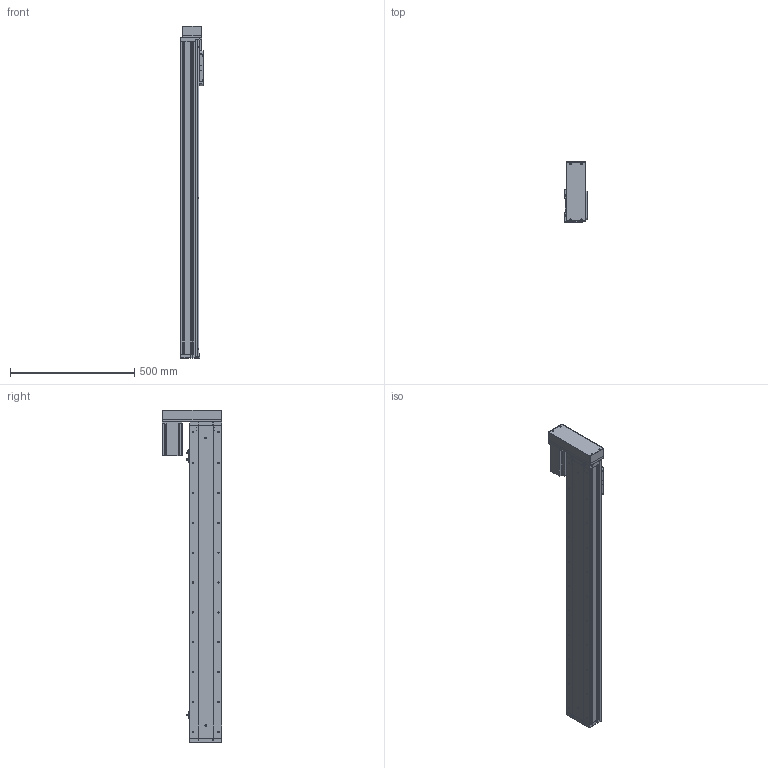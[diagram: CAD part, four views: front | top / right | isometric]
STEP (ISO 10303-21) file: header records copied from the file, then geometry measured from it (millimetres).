
FILE_DESCRIPTION (( 'STEP AP214' ), '1' );
FILE_NAME ('KSD130S-P2010-ML-CR-S1050.STEP', '2019-09-24T06:40:33', ( '微软用户' ), ( '微软中国' ), 'SwSTEP 2.0', 'SolidWorks 2014', '' );
FILE_SCHEMA (( 'AUTOMOTIVE_DESIGN' ));
Length unit declared in the file: millimetre
Products named in the file (14): 130宽滚珠螺姆安装板1防护罩; 130宽滚珠螺姆安装板1; 130宽侧板全封闭-1050行程; 130宽全封闭马达安装板丝杠; 130宽全封闭端盖丝杠; 130宽底板全封闭丝杠-1050行程; 130宽模组保护罩左右折; KSD130S-P2010-ML-CR-S1050; 台达ECMA－C20807AS伺服电机; 130宽模组马达安装板连板左右折丝杆; 感应片130宽全封闭; U倰嫖萇EEㄜSX672; 130遵裔啣揤啣1; 130宽盖板全封闭-1050行程
Assembly tree (17 placements, depth 2):
  KSD130S-P2010-ML-CR-S1050
    130宽底板全封闭丝杠-1050行程
    130宽全封闭端盖丝杠
    130宽全封闭马达安装板丝杠
    130宽侧板全封闭-1050行程  x2
    130宽滚珠螺姆安装板1
    130宽滚珠螺姆安装板1防护罩
    130宽盖板全封闭-1050行程
    130遵裔啣揤啣1  x2
    U倰嫖萇EEㄜSX672  x3
    感应片130宽全封闭
    130宽模组马达安装板连板左右折丝杆
    台达ECMA－C20807AS伺服电机
    130宽模组保护罩左右折
Bounding box: 90 x 240 x 1334.5 mm (x, y, z)
Volume: 4683992.9 mm3; surface area: 1527762.4 mm2
Topology: 18 solids, 18 shells, 1570 faces, 4260 edges, 2657 vertices
Faces by surface type: cylinder 704, plane 611, cone 255
Entity records: 48018 total; most frequent: DIRECTION 7323, CARTESIAN_POINT 7141, ORIENTED_EDGE 6718, EDGE_CURVE 3359, AXIS2_PLACEMENT_3D 2655, VERTEX_POINT 2187, LINE 2013, VECTOR 2013
